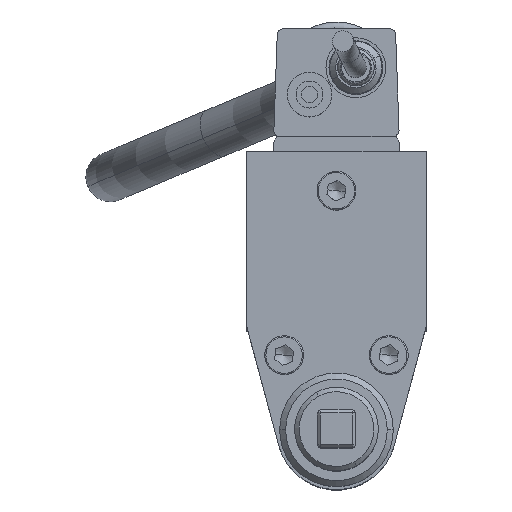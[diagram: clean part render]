
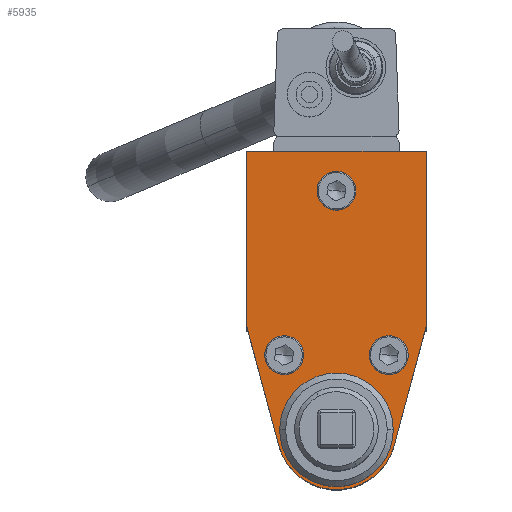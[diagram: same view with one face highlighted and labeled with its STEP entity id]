
A CAD part, top view. The second image highlights one B-rep face of the part: STEP entity #5935.
In plain terms, the highlighted planar face has unit normal (0, 0, 1).
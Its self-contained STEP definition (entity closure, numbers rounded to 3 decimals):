
#5669=CARTESIAN_POINT('Axis2P3D Location',(0.,16.77,391.1)) ;
#5673=CARTESIAN_POINT('Vertex',(-3.794,18.843,391.1)) ;
#5675=CARTESIAN_POINT('Vertex',(3.794,14.697,391.1)) ;
#5695=CARTESIAN_POINT('Axis2P3D Location',(0.,16.77,391.1)) ;
#5798=CARTESIAN_POINT('Axis2P3D Location',(17.5,-38.23,391.1)) ;
#5802=CARTESIAN_POINT('Vertex',(13.706,-36.157,391.1)) ;
#5804=CARTESIAN_POINT('Vertex',(21.294,-40.303,391.1)) ;
#5824=CARTESIAN_POINT('Axis2P3D Location',(17.5,-38.23,391.1)) ;
#5836=CARTESIAN_POINT('Axis2P3D Location',(0.,0.,391.1)) ;
#5841=CARTESIAN_POINT('Line Origine',(0.,30.,391.1)) ;
#5845=CARTESIAN_POINT('Vertex',(30.,30.,391.1)) ;
#5847=CARTESIAN_POINT('Vertex',(-30.,30.,391.1)) ;
#5850=CARTESIAN_POINT('Line Origine',(-30.,0.729,391.1)) ;
#5854=CARTESIAN_POINT('Vertex',(-30.,-28.543,391.1)) ;
#5857=CARTESIAN_POINT('Line Origine',(-24.659,-48.474,391.1)) ;
#5861=CARTESIAN_POINT('Vertex',(-19.319,-68.406,391.1)) ;
#5864=CARTESIAN_POINT('Axis2P3D Location',(0.,-63.23,391.1)) ;
#5868=CARTESIAN_POINT('Vertex',(19.319,-68.406,391.1)) ;
#5871=CARTESIAN_POINT('Line Origine',(24.659,-48.474,391.1)) ;
#5875=CARTESIAN_POINT('Vertex',(30.,-28.543,391.1)) ;
#5878=CARTESIAN_POINT('Line Origine',(30.,0.729,391.1)) ;
#5899=CARTESIAN_POINT('Axis2P3D Location',(-17.5,-38.23,391.1)) ;
#5903=CARTESIAN_POINT('Vertex',(-13.706,-40.303,391.1)) ;
#5905=CARTESIAN_POINT('Vertex',(-21.294,-36.157,391.1)) ;
#5908=CARTESIAN_POINT('Axis2P3D Location',(-17.5,-38.23,391.1)) ;
#5917=CARTESIAN_POINT('Axis2P3D Location',(0.,-63.23,391.1)) ;
#5921=CARTESIAN_POINT('Vertex',(19.,-63.23,391.1)) ;
#5923=CARTESIAN_POINT('Vertex',(-19.,-63.23,391.1)) ;
#5926=CARTESIAN_POINT('Axis2P3D Location',(0.,-63.23,391.1)) ;
#5670=DIRECTION('Axis2P3D Direction',(0.,0.,1.)) ;
#5696=DIRECTION('Axis2P3D Direction',(0.,0.,1.)) ;
#5799=DIRECTION('Axis2P3D Direction',(0.,0.,1.)) ;
#5825=DIRECTION('Axis2P3D Direction',(0.,0.,1.)) ;
#5837=DIRECTION('Axis2P3D Direction',(0.,0.,-1.)) ;
#5838=DIRECTION('Axis2P3D XDirection',(-1.,0.,0.)) ;
#5842=DIRECTION('Vector Direction',(-1.,0.,0.)) ;
#5851=DIRECTION('Vector Direction',(0.,1.,0.)) ;
#5858=DIRECTION('Vector Direction',(-0.259,0.966,0.)) ;
#5865=DIRECTION('Axis2P3D Direction',(0.,0.,-1.)) ;
#5872=DIRECTION('Vector Direction',(0.259,0.966,0.)) ;
#5879=DIRECTION('Vector Direction',(0.,-1.,0.)) ;
#5900=DIRECTION('Axis2P3D Direction',(0.,0.,-1.)) ;
#5909=DIRECTION('Axis2P3D Direction',(0.,0.,-1.)) ;
#5918=DIRECTION('Axis2P3D Direction',(0.,0.,-1.)) ;
#5927=DIRECTION('Axis2P3D Direction',(0.,0.,-1.)) ;
#5671=AXIS2_PLACEMENT_3D('Circle Axis2P3D',#5669,#5670,$) ;
#5697=AXIS2_PLACEMENT_3D('Circle Axis2P3D',#5695,#5696,$) ;
#5800=AXIS2_PLACEMENT_3D('Circle Axis2P3D',#5798,#5799,$) ;
#5826=AXIS2_PLACEMENT_3D('Circle Axis2P3D',#5824,#5825,$) ;
#5839=AXIS2_PLACEMENT_3D('Plane Axis2P3D',#5836,#5837,#5838) ;
#5866=AXIS2_PLACEMENT_3D('Circle Axis2P3D',#5864,#5865,$) ;
#5901=AXIS2_PLACEMENT_3D('Circle Axis2P3D',#5899,#5900,$) ;
#5910=AXIS2_PLACEMENT_3D('Circle Axis2P3D',#5908,#5909,$) ;
#5919=AXIS2_PLACEMENT_3D('Circle Axis2P3D',#5917,#5918,$) ;
#5928=AXIS2_PLACEMENT_3D('Circle Axis2P3D',#5926,#5927,$) ;
#5884=ORIENTED_EDGE('',*,*,#5849,.T.) ;
#5885=ORIENTED_EDGE('',*,*,#5856,.T.) ;
#5886=ORIENTED_EDGE('',*,*,#5863,.T.) ;
#5887=ORIENTED_EDGE('',*,*,#5870,.T.) ;
#5888=ORIENTED_EDGE('',*,*,#5877,.T.) ;
#5889=ORIENTED_EDGE('',*,*,#5882,.T.) ;
#5892=ORIENTED_EDGE('',*,*,#5699,.T.) ;
#5893=ORIENTED_EDGE('',*,*,#5677,.T.) ;
#5896=ORIENTED_EDGE('',*,*,#5828,.T.) ;
#5897=ORIENTED_EDGE('',*,*,#5806,.T.) ;
#5914=ORIENTED_EDGE('',*,*,#5907,.T.) ;
#5915=ORIENTED_EDGE('',*,*,#5912,.T.) ;
#5932=ORIENTED_EDGE('',*,*,#5925,.T.) ;
#5933=ORIENTED_EDGE('',*,*,#5930,.T.) ;
#5894=FACE_BOUND('',#5891,.T.) ;
#5898=FACE_BOUND('',#5895,.T.) ;
#5916=FACE_BOUND('',#5913,.T.) ;
#5934=FACE_BOUND('',#5931,.T.) ;
#5843=VECTOR('Line Direction',#5842,1.) ;
#5852=VECTOR('Line Direction',#5851,1.) ;
#5859=VECTOR('Line Direction',#5858,1.) ;
#5873=VECTOR('Line Direction',#5872,1.) ;
#5880=VECTOR('Line Direction',#5879,1.) ;
#5935=ADVANCED_FACE('',(#5890,#5894,#5898,#5916,#5934),#5840,.F.) ;
#5672=CIRCLE('generated circle',#5671,4.324) ;
#5698=CIRCLE('generated circle',#5697,4.324) ;
#5801=CIRCLE('generated circle',#5800,4.324) ;
#5827=CIRCLE('generated circle',#5826,4.324) ;
#5867=CIRCLE('generated circle',#5866,20.) ;
#5902=CIRCLE('generated circle',#5901,4.324) ;
#5911=CIRCLE('generated circle',#5910,4.324) ;
#5920=CIRCLE('generated circle',#5919,19.) ;
#5929=CIRCLE('generated circle',#5928,19.) ;
#5677=EDGE_CURVE('',#5674,#5676,#5672,.F.) ;
#5699=EDGE_CURVE('',#5676,#5674,#5698,.F.) ;
#5806=EDGE_CURVE('',#5803,#5805,#5801,.F.) ;
#5828=EDGE_CURVE('',#5805,#5803,#5827,.F.) ;
#5849=EDGE_CURVE('',#5846,#5848,#5844,.T.) ;
#5856=EDGE_CURVE('',#5848,#5855,#5853,.F.) ;
#5863=EDGE_CURVE('',#5855,#5862,#5860,.F.) ;
#5870=EDGE_CURVE('',#5862,#5869,#5867,.F.) ;
#5877=EDGE_CURVE('',#5869,#5876,#5874,.T.) ;
#5882=EDGE_CURVE('',#5876,#5846,#5881,.F.) ;
#5907=EDGE_CURVE('',#5904,#5906,#5902,.T.) ;
#5912=EDGE_CURVE('',#5906,#5904,#5911,.T.) ;
#5925=EDGE_CURVE('',#5922,#5924,#5920,.T.) ;
#5930=EDGE_CURVE('',#5924,#5922,#5929,.T.) ;
#5883=EDGE_LOOP('',(#5884,#5885,#5886,#5887,#5888,#5889)) ;
#5891=EDGE_LOOP('',(#5892,#5893)) ;
#5895=EDGE_LOOP('',(#5896,#5897)) ;
#5913=EDGE_LOOP('',(#5914,#5915)) ;
#5931=EDGE_LOOP('',(#5932,#5933)) ;
#5890=FACE_OUTER_BOUND('',#5883,.T.) ;
#5844=LINE('Line',#5841,#5843) ;
#5853=LINE('Line',#5850,#5852) ;
#5860=LINE('Line',#5857,#5859) ;
#5874=LINE('Line',#5871,#5873) ;
#5881=LINE('Line',#5878,#5880) ;
#5840=PLANE('Plane',#5839) ;
#5674=VERTEX_POINT('',#5673) ;
#5676=VERTEX_POINT('',#5675) ;
#5803=VERTEX_POINT('',#5802) ;
#5805=VERTEX_POINT('',#5804) ;
#5846=VERTEX_POINT('',#5845) ;
#5848=VERTEX_POINT('',#5847) ;
#5855=VERTEX_POINT('',#5854) ;
#5862=VERTEX_POINT('',#5861) ;
#5869=VERTEX_POINT('',#5868) ;
#5876=VERTEX_POINT('',#5875) ;
#5904=VERTEX_POINT('',#5903) ;
#5906=VERTEX_POINT('',#5905) ;
#5922=VERTEX_POINT('',#5921) ;
#5924=VERTEX_POINT('',#5923) ;
